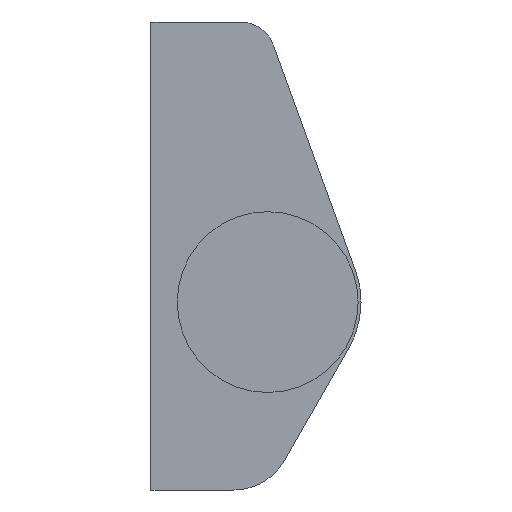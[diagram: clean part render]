
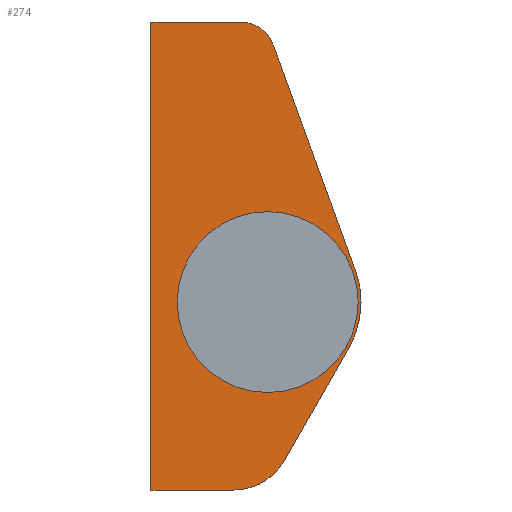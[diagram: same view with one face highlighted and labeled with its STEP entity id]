
A CAD part, front view. The second image highlights one B-rep face of the part: STEP entity #274.
In plain terms, the highlighted planar face has unit normal (0, -1, 0).
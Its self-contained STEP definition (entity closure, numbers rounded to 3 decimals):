
#10 = AXIS2_PLACEMENT_3D ( 'NONE', #114, #123, #124 ) ;
#13 = AXIS2_PLACEMENT_3D ( 'NONE', #82, #83, #84 ) ;
#14 = AXIS2_PLACEMENT_3D ( 'NONE', #86, #96, #97 ) ;
#37 = AXIS2_PLACEMENT_3D ( 'NONE', #85, #87, #88 ) ;
#38 = AXIS2_PLACEMENT_3D ( 'NONE', #75, #92, #93 ) ;
#40 = AXIS2_PLACEMENT_3D ( 'NONE', #122, #130, #131 ) ;
#43 = AXIS2_PLACEMENT_3D ( 'NONE', #144, #146, #147 ) ;
#75 = CARTESIAN_POINT ( 'NONE',  ( -2.899, 239., -11.1 ) ) ;
#82 = CARTESIAN_POINT ( 'NONE',  ( 0., 239., 0. ) ) ;
#83 = DIRECTION ( 'NONE',  ( 0., -1., 0. ) ) ;
#84 = DIRECTION ( 'NONE',  ( -1., 0., 0. ) ) ;
#85 = CARTESIAN_POINT ( 'NONE',  ( 0., 239., 0. ) ) ;
#86 = CARTESIAN_POINT ( 'NONE',  ( -2.322, 239., 21. ) ) ;
#87 = DIRECTION ( 'NONE',  ( 0., -1., 0. ) ) ;
#88 = DIRECTION ( 'NONE',  ( -1., 0., 0. ) ) ;
#89 = CARTESIAN_POINT ( 'NONE',  ( 6.942, 239., -3.975 ) ) ;
#90 = DIRECTION ( 'NONE',  ( 0.497, 0., 0.868 ) ) ;
#92 = DIRECTION ( 'NONE',  ( 0., -1., 0. ) ) ;
#93 = DIRECTION ( 'NONE',  ( -1., 0., 0. ) ) ;
#94 = CARTESIAN_POINT ( 'NONE',  ( -2.899, 239., -16.1 ) ) ;
#95 = DIRECTION ( 'NONE',  ( 1., 0., 0. ) ) ;
#96 = DIRECTION ( 'NONE',  ( 0., -1., 0. ) ) ;
#97 = DIRECTION ( 'NONE',  ( -1., 0., 0. ) ) ;
#98 = CARTESIAN_POINT ( 'NONE',  ( 0.497, 239., 22.026 ) ) ;
#99 = DIRECTION ( 'NONE',  ( -0.342, 0., 0.94 ) ) ;
#100 = CARTESIAN_POINT ( 'NONE',  ( -10., 239., -16.1 ) ) ;
#101 = DIRECTION ( 'NONE',  ( 0., 0., -1. ) ) ;
#108 = CARTESIAN_POINT ( 'NONE',  ( -10., 239., 24. ) ) ;
#114 = CARTESIAN_POINT ( 'NONE',  ( 0., 239., 0. ) ) ;
#118 = DIRECTION ( 'NONE',  ( -1., 0., 0. ) ) ;
#122 = CARTESIAN_POINT ( 'NONE',  ( 0., 239., 0. ) ) ;
#123 = DIRECTION ( 'NONE',  ( 0., -1., 0. ) ) ;
#124 = DIRECTION ( 'NONE',  ( -1., 0., 0. ) ) ;
#130 = DIRECTION ( 'NONE',  ( 0., -1., 0. ) ) ;
#131 = DIRECTION ( 'NONE',  ( -1., 0., 0. ) ) ;
#144 = CARTESIAN_POINT ( 'NONE',  ( -2.322, 239., 21. ) ) ;
#145 = PLANE ( 'NONE',  #43 ) ;
#146 = DIRECTION ( 'NONE',  ( 0., 1., 0. ) ) ;
#147 = DIRECTION ( 'NONE',  ( -1., 0., 0. ) ) ;
#199 = CARTESIAN_POINT ( 'NONE',  ( 8., 239., 0. ) ) ;
#200 = CARTESIAN_POINT ( 'NONE',  ( 6.942, 239., -3.975 ) ) ;
#203 = CARTESIAN_POINT ( 'NONE',  ( 6., 239., 0. ) ) ;
#204 = CARTESIAN_POINT ( 'NONE',  ( -6., 239., 0. ) ) ;
#205 = CARTESIAN_POINT ( 'NONE',  ( -10., 239., -16.1 ) ) ;
#206 = CARTESIAN_POINT ( 'NONE',  ( -2.899, 239., -16.1 ) ) ;
#207 = CARTESIAN_POINT ( 'NONE',  ( 1.44, 239., -13.584 ) ) ;
#208 = CARTESIAN_POINT ( 'NONE',  ( 7.518, 239., 2.736 ) ) ;
#209 = CARTESIAN_POINT ( 'NONE',  ( 0.497, 239., 22.026 ) ) ;
#210 = CARTESIAN_POINT ( 'NONE',  ( -2.322, 239., 24. ) ) ;
#211 = CARTESIAN_POINT ( 'NONE',  ( -10., 239., 24. ) ) ;
#229 = EDGE_CURVE ( 'NONE', #301, #310, #474, .T. ) ;
#230 = EDGE_CURVE ( 'NONE', #306, #305, #476, .T. ) ;
#231 = EDGE_CURVE ( 'NONE', #309, #302, #472, .T. ) ;
#232 = EDGE_CURVE ( 'NONE', #308, #309, #479, .T. ) ;
#233 = EDGE_CURVE ( 'NONE', #307, #308, #470, .T. ) ;
#234 = EDGE_CURVE ( 'NONE', #311, #313, #482, .T. ) ;
#235 = EDGE_CURVE ( 'NONE', #310, #311, #469, .T. ) ;
#236 = EDGE_CURVE ( 'NONE', #314, #307, #483, .T. ) ;
#246 = EDGE_CURVE ( 'NONE', #313, #314, #488, .T. ) ;
#248 = EDGE_CURVE ( 'NONE', #305, #306, #502, .T. ) ;
#250 = EDGE_CURVE ( 'NONE', #302, #301, #506, .T. ) ;
#274 = ADVANCED_FACE ( 'NONE', ( #509, #514 ), #145, .F. ) ;
#301 = VERTEX_POINT ( 'NONE', #199 ) ;
#302 = VERTEX_POINT ( 'NONE', #200 ) ;
#305 = VERTEX_POINT ( 'NONE', #203 ) ;
#306 = VERTEX_POINT ( 'NONE', #204 ) ;
#307 = VERTEX_POINT ( 'NONE', #205 ) ;
#308 = VERTEX_POINT ( 'NONE', #206 ) ;
#309 = VERTEX_POINT ( 'NONE', #207 ) ;
#310 = VERTEX_POINT ( 'NONE', #208 ) ;
#311 = VERTEX_POINT ( 'NONE', #209 ) ;
#313 = VERTEX_POINT ( 'NONE', #210 ) ;
#314 = VERTEX_POINT ( 'NONE', #211 ) ;
#354 = ORIENTED_EDGE ( 'NONE', *, *, #233, .T. ) ;
#355 = ORIENTED_EDGE ( 'NONE', *, *, #232, .T. ) ;
#356 = ORIENTED_EDGE ( 'NONE', *, *, #231, .T. ) ;
#357 = ORIENTED_EDGE ( 'NONE', *, *, #250, .T. ) ;
#358 = ORIENTED_EDGE ( 'NONE', *, *, #229, .T. ) ;
#359 = ORIENTED_EDGE ( 'NONE', *, *, #235, .T. ) ;
#360 = ORIENTED_EDGE ( 'NONE', *, *, #234, .T. ) ;
#361 = ORIENTED_EDGE ( 'NONE', *, *, #246, .T. ) ;
#362 = ORIENTED_EDGE ( 'NONE', *, *, #236, .T. ) ;
#363 = ORIENTED_EDGE ( 'NONE', *, *, #230, .F. ) ;
#364 = ORIENTED_EDGE ( 'NONE', *, *, #248, .F. ) ;
#420 = EDGE_LOOP ( 'NONE', ( #354, #355, #356, #357, #358, #359, #360, #361, #362 ) ) ;
#424 = EDGE_LOOP ( 'NONE', ( #363, #364 ) ) ;
#469 = LINE ( 'NONE', #98, #478 ) ;
#470 = LINE ( 'NONE', #94, #475 ) ;
#472 = LINE ( 'NONE', #89, #473 ) ;
#473 = VECTOR ( 'NONE', #90, 1000. ) ;
#474 = CIRCLE ( 'NONE', #13, 8. ) ;
#475 = VECTOR ( 'NONE', #95, 1000. ) ;
#476 = CIRCLE ( 'NONE', #37, 6. ) ;
#478 = VECTOR ( 'NONE', #99, 1000. ) ;
#479 = CIRCLE ( 'NONE', #38, 5. ) ;
#482 = CIRCLE ( 'NONE', #14, 3. ) ;
#483 = LINE ( 'NONE', #100, #484 ) ;
#484 = VECTOR ( 'NONE', #101, 1000. ) ;
#488 = LINE ( 'NONE', #108, #498 ) ;
#498 = VECTOR ( 'NONE', #118, 1000. ) ;
#502 = CIRCLE ( 'NONE', #10, 6. ) ;
#506 = CIRCLE ( 'NONE', #40, 8. ) ;
#509 = FACE_OUTER_BOUND ( 'NONE', #420, .T. ) ;
#514 = FACE_BOUND ( 'NONE', #424, .T. ) ;
